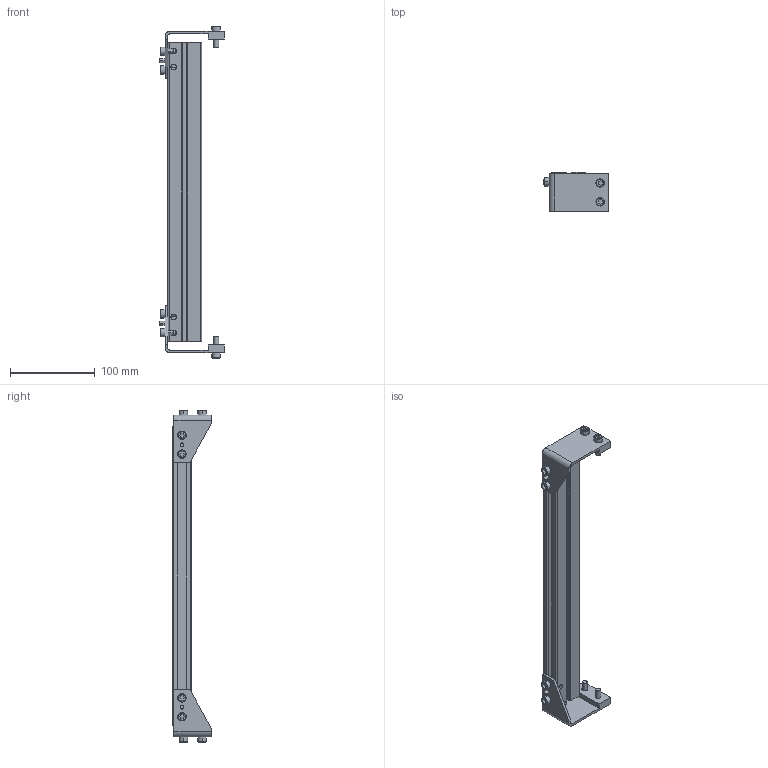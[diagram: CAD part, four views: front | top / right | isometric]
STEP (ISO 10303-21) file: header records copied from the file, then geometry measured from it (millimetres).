
FILE_DESCRIPTION((''),'2;1');
FILE_NAME('3076WWM_2_ASM','2023-03-15T',('jenni.wallner'),(''),'PRO/ENGINEER BY PARAMETRIC TECHNOLOGY CORPORATION, 2012420','PRO/ENGINEER BY PARAMETRIC TECHNOLOGY CORPORATION, 2012420','');
FILE_SCHEMA(('CONFIG_CONTROL_DESIGN'));
Length unit declared in the file: inch
Products named in the file (4): 677721_1; BRACKET_L; BRACKET_R; 3076WWM_2_ASM
Assembly tree (3 placements, depth 2):
  3076WWM_2_ASM
    677721_1
    BRACKET_L
    BRACKET_R
Bounding box: 76.2 x 46.13 x 392.42 mm (x, y, z)
Volume: 188165.7 mm3; surface area: 114449.3 mm2
Topology: 3 solids, 3 shells, 296 faces, 730 edges, 476 vertices
Faces by surface type: plane 188, cylinder 76, cone 32
Entity records: 8834 total; most frequent: DIRECTION 1520, CARTESIAN_POINT 1509, ORIENTED_EDGE 1460, EDGE_CURVE 730, VECTOR 546, LINE 546, AXIS2_PLACEMENT_3D 487, VERTEX_POINT 476
